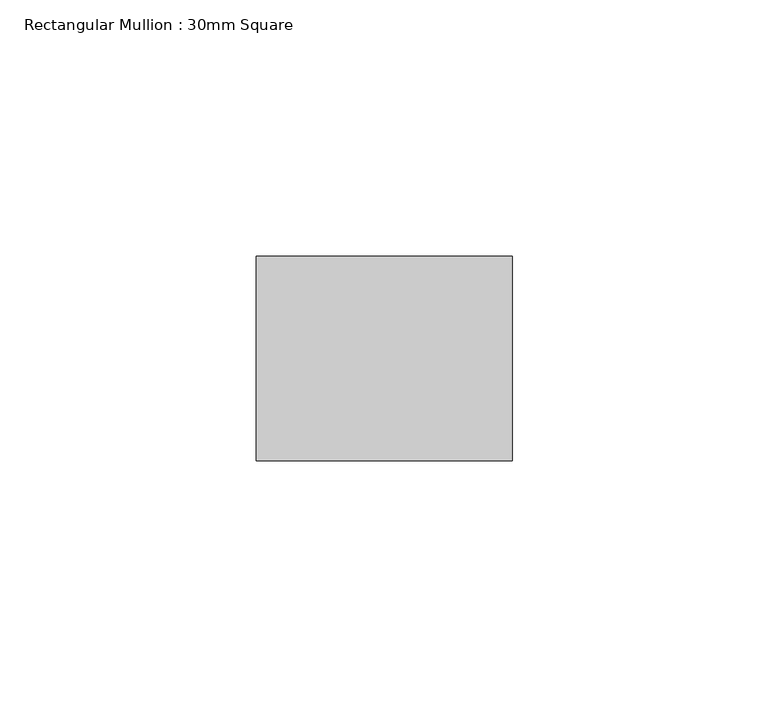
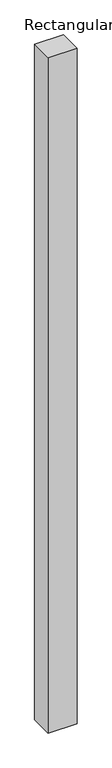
"""IFC4 building model written with IfcOpenShell, lengths in millimetres: member geometry, Rectangular Mullion : 30mm Square."""

from ifc_helpers import new_model, si_unit, frame, origin, place, context, project, spatial, polyline, outline, extrude, source, transform, mapped, element, save


def rectangular_mullion_30mm_square_65c46e77(model_context):
    return source(origin(), model_context, "Body", "SweptSolid", [
        extrude(outline(polyline([(0.0, 20.0), (0.0, -20.0), (-50.0, -20.0), (-50.0, 20.0), (0.0, 20.0)])), frame((0.0, 0.0, -1233.3894108), z_axis=(0.0, 0.0, 1.0), x_axis=(1.0, 0.0, 0.0)), (0.0, 0.0, 1.0), 1233.3894108),
    ])


if __name__ == "__main__":
    model = new_model("IFC4")
    model_context = context("Model", 3, world=origin())
    ifc_project = project(units=[si_unit("LENGTHUNIT", "METRE", prefix="MILLI")], contexts=[model_context])
    site = spatial("IfcSite", under=ifc_project)
    building = spatial("IfcBuilding", under=site)
    placement = place(None, origin())
    rectangular_mullion_30mm_square_shape = rectangular_mullion_30mm_square_65c46e77(model_context)
    element("IfcMember", 1, ObjectType="Rectangular Mullion : 30mm Square", at=placement, inside=building, context=model_context, shape_type="MappedRepresentation", body=[
        mapped(rectangular_mullion_30mm_square_shape, transform((0.0, 0.0, 0.0), x_axis=(1.0, 0.0, 0.0), y_axis=(0.0, 1.0, 0.0), z_axis=(0.0, 0.0, 1.0))),
    ])
    save(model, "model.ifc")
